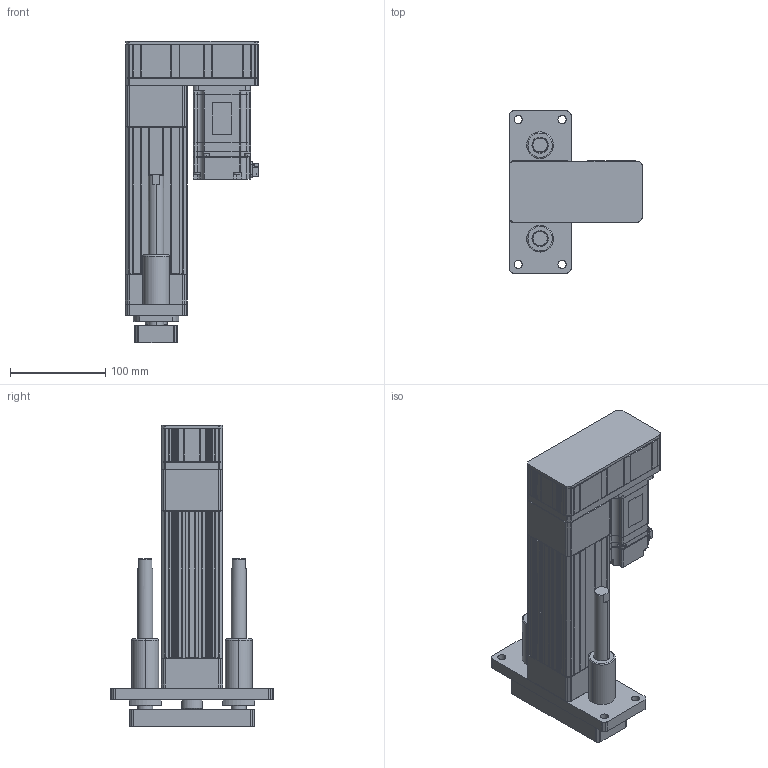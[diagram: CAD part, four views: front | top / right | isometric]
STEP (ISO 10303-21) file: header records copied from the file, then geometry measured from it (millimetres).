
FILE_DESCRIPTION (( 'STEP AP203' ), '1' );
FILE_NAME ('ANS065R-GP050-05(10)(20)-W40.STEP', '2019-03-01T08:46:28', ( 'user' ), ( '' ), 'SwSTEP 2.0', 'SolidWorks 2013', '' );
FILE_SCHEMA (( 'CONFIG_CONTROL_DESIGN' ));
Length unit declared in the file: millimetre
Products named in the file (4): ANS065R GP050 VER2; ANS065 ROD ST050 G; sgmjv_04a_a21; ANS065R-GP050-05(10)(20)-W40
Assembly tree (3 placements, depth 2):
  ANS065R-GP050-05(10)(20)-W40
    ANS065R GP050 VER2
    ANS065 ROD ST050 G
    sgmjv_04a_a21
Bounding box: 140.3 x 170 x 316 mm (x, y, z)
Volume: 1412494.2 mm3; surface area: 318395.7 mm2
Topology: 3 solids, 19 shells, 1720 faces, 4439 edges, 2846 vertices
Faces by surface type: plane 1030, cylinder 504, cone 182, torus 4
Entity records: 52345 total; most frequent: CARTESIAN_POINT 9317, DIRECTION 8915, ORIENTED_EDGE 8830, EDGE_CURVE 4415, LINE 3163, VECTOR 3163, AXIS2_PLACEMENT_3D 2876, VERTEX_POINT 2846
